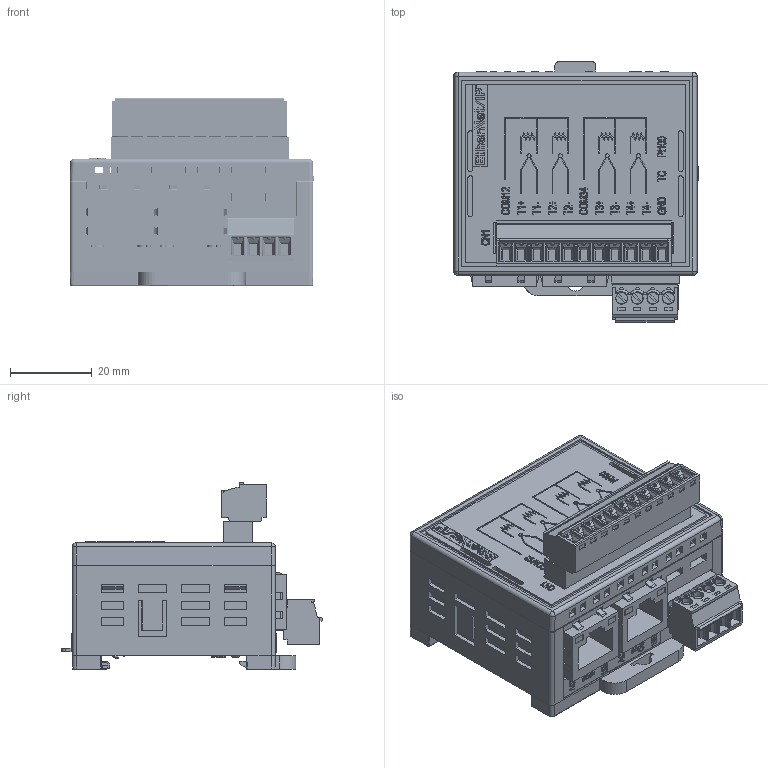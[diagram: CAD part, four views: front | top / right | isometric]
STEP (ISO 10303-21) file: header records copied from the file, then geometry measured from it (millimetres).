
FILE_DESCRIPTION((''),'2;1');
FILE_NAME('EICBT40','2026-05-27T14:14:53',('gijyu181'),(''),'CREO PARAMETRIC BY PTC INC, 2018050','CREO PARAMETRIC BY PTC INC, 2018050','');
FILE_SCHEMA(('CONFIG_CONTROL_DESIGN','SHAPE_APPEARANCE_LAYERS_GROUPS'));
Products named in the file (1): EICBT40
Bounding box: 59.75 x 63.65 x 45.8 mm (x, y, z)
Volume: 73447.7 mm3; surface area: 45804.4 mm2
Topology: 2 solids, 65 shells, 8957 faces, 24746 edges, 16281 vertices
Faces by surface type: plane 6288, cylinder 1249, extrusion 1132, cone 117, sphere 89, torus 58, bspline 24
Entity records: 360657 total; most frequent: CARTESIAN_POINT 65416, ORIENTED_EDGE 49366, DIRECTION 40716, EDGE_CURVE 24687, VECTOR 20216, LINE 19084, VERTEX_POINT 16281, PRESENTATION_STYLE_ASSIGNMENT 13429
